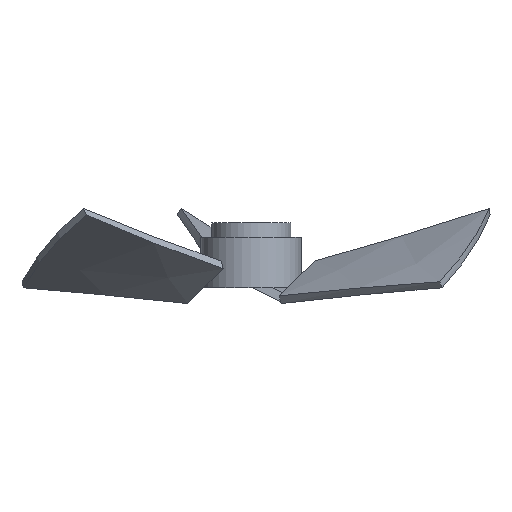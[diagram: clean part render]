
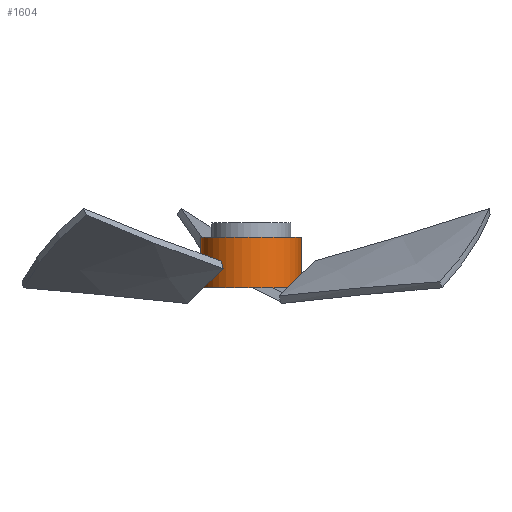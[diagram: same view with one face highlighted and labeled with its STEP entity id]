
A CAD part, left-side view. The second image highlights one B-rep face of the part: STEP entity #1604.
In plain terms, the highlighted cylindrical face has radius 14 mm (diameter 28 mm), a full revolution.
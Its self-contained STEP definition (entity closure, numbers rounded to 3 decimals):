
#1468 = PLANE('',#1469);
#1469 = AXIS2_PLACEMENT_3D('',#1470,#1471,#1472);
#1470 = CARTESIAN_POINT('',(0.,0.,21.5)
  );
#1471 = DIRECTION('',(0.,0.,1.));
#1472 = DIRECTION('',(1.,0.,0.));
#1557 = PLANE('',#1558);
#1558 = AXIS2_PLACEMENT_3D('',#1559,#1560,#1561);
#1559 = CARTESIAN_POINT('',(0.,0.,7.5)
  );
#1560 = DIRECTION('',(0.,0.,1.));
#1561 = DIRECTION('',(1.,0.,0.));
#1573 = EDGE_CURVE('',#1574,#1574,#1576,.T.);
#1574 = VERTEX_POINT('',#1575);
#1575 = CARTESIAN_POINT('',(14.,0.,7.5));
#1576 = SURFACE_CURVE('',#1577,(#1582,#1589),.PCURVE_S1.);
#1577 = CIRCLE('',#1578,14.);
#1578 = AXIS2_PLACEMENT_3D('',#1579,#1580,#1581);
#1579 = CARTESIAN_POINT('',(0.,0.,7.5));
#1580 = DIRECTION('',(0.,0.,1.));
#1581 = DIRECTION('',(1.,0.,0.));
#1582 = PCURVE('',#1557,#1583);
#1583 = DEFINITIONAL_REPRESENTATION('',(#1584),#1588);
#1584 = CIRCLE('',#1585,14.);
#1585 = AXIS2_PLACEMENT_2D('',#1586,#1587);
#1586 = CARTESIAN_POINT('',(0.,0.));
#1587 = DIRECTION('',(1.,0.));
#1588 = ( GEOMETRIC_REPRESENTATION_CONTEXT(2) 
PARAMETRIC_REPRESENTATION_CONTEXT() REPRESENTATION_CONTEXT('2D SPACE',''
  ) );
#1589 = PCURVE('',#1590,#1595);
#1590 = CYLINDRICAL_SURFACE('',#1591,14.);
#1591 = AXIS2_PLACEMENT_3D('',#1592,#1593,#1594);
#1592 = CARTESIAN_POINT('',(0.,0.,7.5));
#1593 = DIRECTION('',(-0.,-0.,-1.));
#1594 = DIRECTION('',(1.,0.,0.));
#1595 = DEFINITIONAL_REPRESENTATION('',(#1596),#1600);
#1596 = LINE('',#1597,#1598);
#1597 = CARTESIAN_POINT('',(-0.,0.));
#1598 = VECTOR('',#1599,1.);
#1599 = DIRECTION('',(-1.,0.));
#1600 = ( GEOMETRIC_REPRESENTATION_CONTEXT(2) 
PARAMETRIC_REPRESENTATION_CONTEXT() REPRESENTATION_CONTEXT('2D SPACE',''
  ) );
#1604 = ADVANCED_FACE('',(#1605),#1590,.T.);
#1605 = FACE_BOUND('',#1606,.F.);
#1606 = EDGE_LOOP('',(#1607,#1630,#1652,#1653));
#1607 = ORIENTED_EDGE('',*,*,#1608,.T.);
#1608 = EDGE_CURVE('',#1574,#1609,#1611,.T.);
#1609 = VERTEX_POINT('',#1610);
#1610 = CARTESIAN_POINT('',(14.,0.,21.5));
#1611 = SEAM_CURVE('',#1612,(#1616,#1623),.PCURVE_S1.);
#1612 = LINE('',#1613,#1614);
#1613 = CARTESIAN_POINT('',(14.,0.,7.5));
#1614 = VECTOR('',#1615,1.);
#1615 = DIRECTION('',(0.,0.,1.));
#1616 = PCURVE('',#1590,#1617);
#1617 = DEFINITIONAL_REPRESENTATION('',(#1618),#1622);
#1618 = LINE('',#1619,#1620);
#1619 = CARTESIAN_POINT('',(-0.,0.));
#1620 = VECTOR('',#1621,1.);
#1621 = DIRECTION('',(-0.,-1.));
#1622 = ( GEOMETRIC_REPRESENTATION_CONTEXT(2) 
PARAMETRIC_REPRESENTATION_CONTEXT() REPRESENTATION_CONTEXT('2D SPACE',''
  ) );
#1623 = PCURVE('',#1590,#1624);
#1624 = DEFINITIONAL_REPRESENTATION('',(#1625),#1629);
#1625 = LINE('',#1626,#1627);
#1626 = CARTESIAN_POINT('',(-6.283,0.));
#1627 = VECTOR('',#1628,1.);
#1628 = DIRECTION('',(-0.,-1.));
#1629 = ( GEOMETRIC_REPRESENTATION_CONTEXT(2) 
PARAMETRIC_REPRESENTATION_CONTEXT() REPRESENTATION_CONTEXT('2D SPACE',''
  ) );
#1630 = ORIENTED_EDGE('',*,*,#1631,.T.);
#1631 = EDGE_CURVE('',#1609,#1609,#1632,.T.);
#1632 = SURFACE_CURVE('',#1633,(#1638,#1645),.PCURVE_S1.);
#1633 = CIRCLE('',#1634,14.);
#1634 = AXIS2_PLACEMENT_3D('',#1635,#1636,#1637);
#1635 = CARTESIAN_POINT('',(0.,0.,21.5));
#1636 = DIRECTION('',(0.,0.,1.));
#1637 = DIRECTION('',(1.,0.,0.));
#1638 = PCURVE('',#1590,#1639);
#1639 = DEFINITIONAL_REPRESENTATION('',(#1640),#1644);
#1640 = LINE('',#1641,#1642);
#1641 = CARTESIAN_POINT('',(-0.,-14.));
#1642 = VECTOR('',#1643,1.);
#1643 = DIRECTION('',(-1.,0.));
#1644 = ( GEOMETRIC_REPRESENTATION_CONTEXT(2) 
PARAMETRIC_REPRESENTATION_CONTEXT() REPRESENTATION_CONTEXT('2D SPACE',''
  ) );
#1645 = PCURVE('',#1468,#1646);
#1646 = DEFINITIONAL_REPRESENTATION('',(#1647),#1651);
#1647 = CIRCLE('',#1648,14.);
#1648 = AXIS2_PLACEMENT_2D('',#1649,#1650);
#1649 = CARTESIAN_POINT('',(0.,0.));
#1650 = DIRECTION('',(1.,0.));
#1651 = ( GEOMETRIC_REPRESENTATION_CONTEXT(2) 
PARAMETRIC_REPRESENTATION_CONTEXT() REPRESENTATION_CONTEXT('2D SPACE',''
  ) );
#1652 = ORIENTED_EDGE('',*,*,#1608,.F.);
#1653 = ORIENTED_EDGE('',*,*,#1573,.F.);
